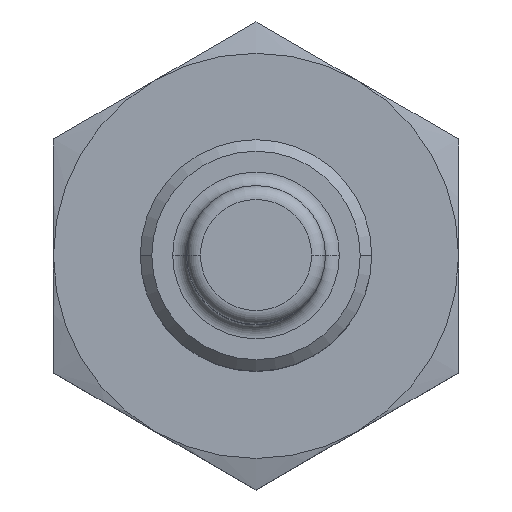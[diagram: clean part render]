
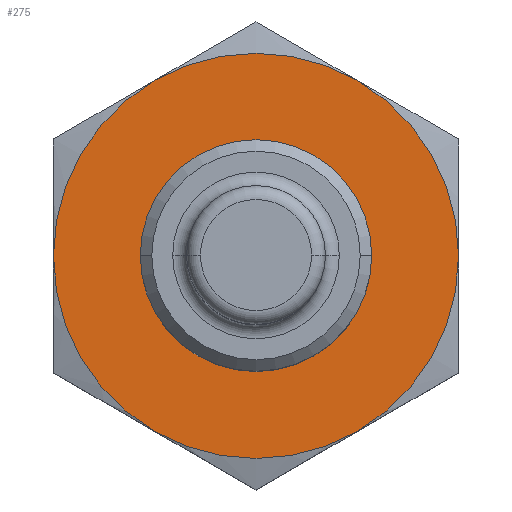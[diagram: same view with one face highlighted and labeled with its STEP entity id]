
A CAD part, top view. The second image highlights one B-rep face of the part: STEP entity #275.
In plain terms, the highlighted planar face has unit normal (0, 0, 1).
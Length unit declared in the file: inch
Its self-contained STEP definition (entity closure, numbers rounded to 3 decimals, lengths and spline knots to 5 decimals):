
#87 = CARTESIAN_POINT ( 'NONE',  ( 0.21875, -0.37889, -1.055 ) ) ;
#126 = VERTEX_POINT ( 'NONE', #557 ) ;
#133 = EDGE_CURVE ( 'NONE', #156, #150, #554, .T. ) ;
#145 = EDGE_CURVE ( 'NONE', #126, #156, #593, .T. ) ;
#150 = VERTEX_POINT ( 'NONE', #625 ) ;
#153 = VERTEX_POINT ( 'NONE', #618 ) ;
#156 = VERTEX_POINT ( 'NONE', #601 ) ;
#161 = VERTEX_POINT ( 'NONE', #636 ) ;
#255 = ORIENTED_EDGE ( 'NONE', *, *, #133, .T. ) ;
#256 = ORIENTED_EDGE ( 'NONE', *, *, #1228, .T. ) ;
#257 = ORIENTED_EDGE ( 'NONE', *, *, #267, .F. ) ;
#258 = ORIENTED_EDGE ( 'NONE', *, *, #1371, .F. ) ;
#267 = EDGE_CURVE ( 'NONE', #1378, #1372, #767, .T. ) ;
#268 = EDGE_LOOP ( 'NONE', ( #255, #256, #319, #317, #320, #321 ) ) ;
#275 = ADVANCED_FACE ( 'NONE', ( #768, #763 ), #755, .F. ) ;
#276 = EDGE_LOOP ( 'NONE', ( #258, #257 ) ) ;
#317 = ORIENTED_EDGE ( 'NONE', *, *, #1097, .T. ) ;
#319 = ORIENTED_EDGE ( 'NONE', *, *, #1047, .T. ) ;
#320 = ORIENTED_EDGE ( 'NONE', *, *, #1243, .T. ) ;
#321 = ORIENTED_EDGE ( 'NONE', *, *, #145, .T. ) ;
#338 = VERTEX_POINT ( 'NONE', #87 ) ;
#394 = DIRECTION ( 'NONE',  ( 0., 0., 1. ) ) ;
#395 = DIRECTION ( 'NONE',  ( 0., 0., 1. ) ) ;
#396 = AXIS2_PLACEMENT_3D ( 'NONE', #405, #395, #399 ) ;
#399 = DIRECTION ( 'NONE',  ( 1., 0., 0. ) ) ;
#400 = DIRECTION ( 'NONE',  ( 1., 0., 0. ) ) ;
#401 = CIRCLE ( 'NONE', #396, 0.4375 ) ;
#402 = CARTESIAN_POINT ( 'NONE',  ( 0., 0., -1.055 ) ) ;
#403 = AXIS2_PLACEMENT_3D ( 'NONE', #402, #394, #400 ) ;
#404 = CIRCLE ( 'NONE', #403, 0.4375 ) ;
#405 = CARTESIAN_POINT ( 'NONE',  ( 0., 0., -1.055 ) ) ;
#424 = DIRECTION ( 'NONE',  ( 1., 0., 0. ) ) ;
#425 = DIRECTION ( 'NONE',  ( 0., 0., 1. ) ) ;
#426 = CARTESIAN_POINT ( 'NONE',  ( 0., 0., -1.055 ) ) ;
#427 = AXIS2_PLACEMENT_3D ( 'NONE', #426, #425, #424 ) ;
#428 = CIRCLE ( 'NONE', #427, 0.4375 ) ;
#445 = DIRECTION ( 'NONE',  ( 1., 0., 0. ) ) ;
#446 = DIRECTION ( 'NONE',  ( 0., 0., 1. ) ) ;
#447 = CARTESIAN_POINT ( 'NONE',  ( 0., 0., -1.055 ) ) ;
#448 = AXIS2_PLACEMENT_3D ( 'NONE', #447, #446, #445 ) ;
#449 = CIRCLE ( 'NONE', #448, 0.4375 ) ;
#553 = DIRECTION ( 'NONE',  ( 0., 0., 1. ) ) ;
#554 = CIRCLE ( 'NONE', #569, 0.4375 ) ;
#557 = CARTESIAN_POINT ( 'NONE',  ( 0.21875, 0.37889, -1.055 ) ) ;
#568 = CARTESIAN_POINT ( 'NONE',  ( 0., 0., -1.055 ) ) ;
#569 = AXIS2_PLACEMENT_3D ( 'NONE', #568, #553, #576 ) ;
#576 = DIRECTION ( 'NONE',  ( 1., 0., 0. ) ) ;
#590 = DIRECTION ( 'NONE',  ( 0., 0., 1. ) ) ;
#591 = CARTESIAN_POINT ( 'NONE',  ( 0., 0., -1.055 ) ) ;
#592 = AXIS2_PLACEMENT_3D ( 'NONE', #591, #590, #596 ) ;
#593 = CIRCLE ( 'NONE', #592, 0.4375 ) ;
#596 = DIRECTION ( 'NONE',  ( 1., 0., 0. ) ) ;
#601 = CARTESIAN_POINT ( 'NONE',  ( -0.21875, 0.37889, -1.055 ) ) ;
#618 = CARTESIAN_POINT ( 'NONE',  ( -0.21875, -0.37889, -1.055 ) ) ;
#625 = CARTESIAN_POINT ( 'NONE',  ( -0.4375, 0., -1.055 ) ) ;
#636 = CARTESIAN_POINT ( 'NONE',  ( 0.4375, 0., -1.055 ) ) ;
#754 = AXIS2_PLACEMENT_3D ( 'NONE', #760, #759, #758 ) ;
#755 = PLANE ( 'NONE',  #754 ) ;
#758 = DIRECTION ( 'NONE',  ( -1., 0., 0. ) ) ;
#759 = DIRECTION ( 'NONE',  ( 0., 0., -1. ) ) ;
#760 = CARTESIAN_POINT ( 'NONE',  ( 0., 0.215, -1.055 ) ) ;
#761 = CARTESIAN_POINT ( 'NONE',  ( 0., 0., -1.055 ) ) ;
#763 = FACE_OUTER_BOUND ( 'NONE', #268, .T. ) ;
#764 = DIRECTION ( 'NONE',  ( 1., 0., 0. ) ) ;
#765 = DIRECTION ( 'NONE',  ( 0., 0., 1. ) ) ;
#766 = AXIS2_PLACEMENT_3D ( 'NONE', #761, #765, #764 ) ;
#767 = CIRCLE ( 'NONE', #766, 0.215 ) ;
#768 = FACE_BOUND ( 'NONE', #276, .T. ) ;
#1047 = EDGE_CURVE ( 'NONE', #153, #338, #404, .T. ) ;
#1097 = EDGE_CURVE ( 'NONE', #338, #161, #401, .T. ) ;
#1201 = DIRECTION ( 'NONE',  ( 1., 0., 0. ) ) ;
#1202 = DIRECTION ( 'NONE',  ( 0., 0., 1. ) ) ;
#1203 = CARTESIAN_POINT ( 'NONE',  ( 0., 0., -1.055 ) ) ;
#1207 = CARTESIAN_POINT ( 'NONE',  ( 0.215, 0., -1.055 ) ) ;
#1209 = CARTESIAN_POINT ( 'NONE',  ( -0.215, 0., -1.055 ) ) ;
#1210 = AXIS2_PLACEMENT_3D ( 'NONE', #1203, #1202, #1201 ) ;
#1211 = CIRCLE ( 'NONE', #1210, 0.215 ) ;
#1228 = EDGE_CURVE ( 'NONE', #150, #153, #449, .T. ) ;
#1243 = EDGE_CURVE ( 'NONE', #161, #126, #428, .T. ) ;
#1371 = EDGE_CURVE ( 'NONE', #1372, #1378, #1211, .T. ) ;
#1372 = VERTEX_POINT ( 'NONE', #1207 ) ;
#1378 = VERTEX_POINT ( 'NONE', #1209 ) ;
